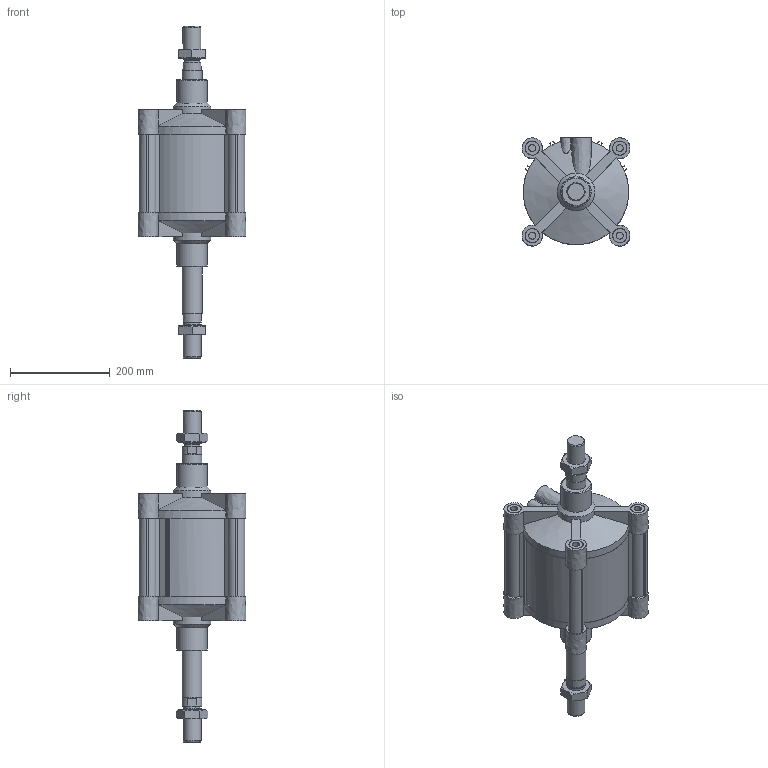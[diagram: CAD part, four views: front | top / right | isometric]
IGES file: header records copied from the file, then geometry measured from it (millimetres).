
Global section: file name: 139#_200_0075_02; native system: Autodesk Inventor 2014; preprocessor: unknown; author: F. Piloni; organization: Pneumax S.p.A.; date: 20151120.143153; units: millimetre
Bounding box: 215.94 x 215.97 x 664 mm (x, y, z)
Volume: 7064890.1 mm3; surface area: 847051.7 mm2
Topology: 6 solids, 6 shells, 324 faces, 844 edges, 567 vertices
Faces by surface type: bspline 324
